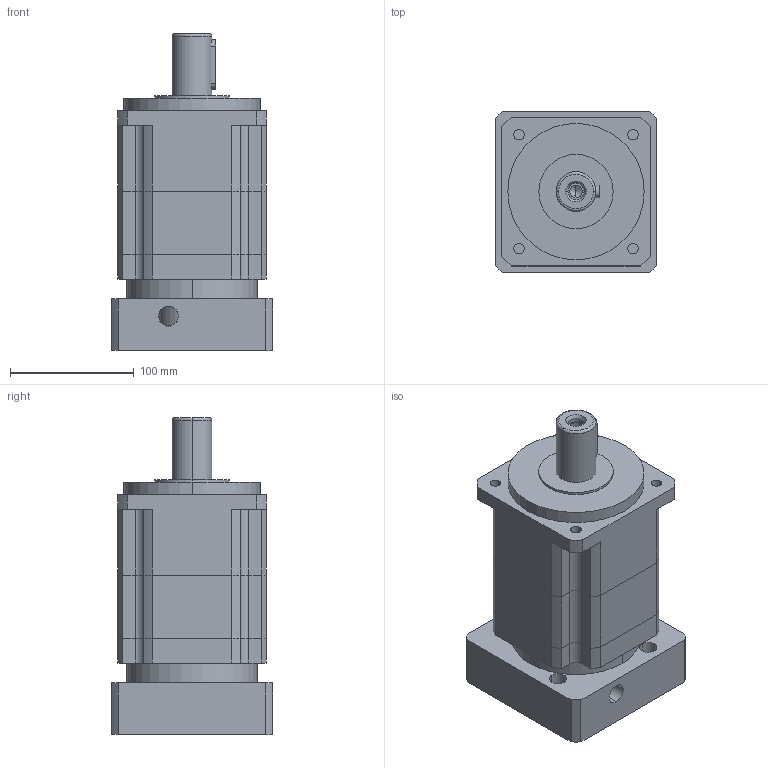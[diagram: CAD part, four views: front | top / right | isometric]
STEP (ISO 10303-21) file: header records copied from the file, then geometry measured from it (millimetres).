
FILE_DESCRIPTION (( 'STEP AP203' ), '1' );
FILE_NAME ('PAG120-L2-28-110-145.STEP', '2024-01-17T03:04:24', ( 'Windows User' ), ( 'P R C' ), 'SwSTEP 2.0', 'SolidWorks 2016', '' );
FILE_SCHEMA (( 'CONFIG_CONTROL_DESIGN' ));
Length unit declared in the file: millimetre
Products named in the file (8): 囀鞠褒蹟佪-M8℅25; 邧埴瑩 10x8x40; 粣創-6009 45x75x16; PAG120-二级齿圈; PAG120-L2-28-110-145; PAG120-本体齿圈; PAG120-薊粣ん-28_LZ03; PAG120-帣釱-LR71
Assembly tree (7 placements, depth 2):
  PAG120-L2-28-110-145
    PAG120-本体齿圈
    PAG120-薊粣ん-28_LZ03
    PAG120-帣釱-LR71
    囀鞠褒蹟佪-M8℅25
    邧埴瑩 10x8x40
    粣創-6009 45x75x16
    PAG120-二级齿圈
Bounding box: 130 x 130 x 255.5 mm (x, y, z)
Volume: 2399024.2 mm3; surface area: 271518.4 mm2
Topology: 7 solids, 7 shells, 997 faces, 2741 edges, 1808 vertices
Faces by surface type: plane 541, bspline 263, cylinder 177, cone 16
Entity records: 45219 total; most frequent: CARTESIAN_POINT 20558, ORIENTED_EDGE 5454, DIRECTION 4135, EDGE_CURVE 2727, VERTEX_POINT 1804, VECTOR 1557, LINE 1557, AXIS2_PLACEMENT_3D 1289
